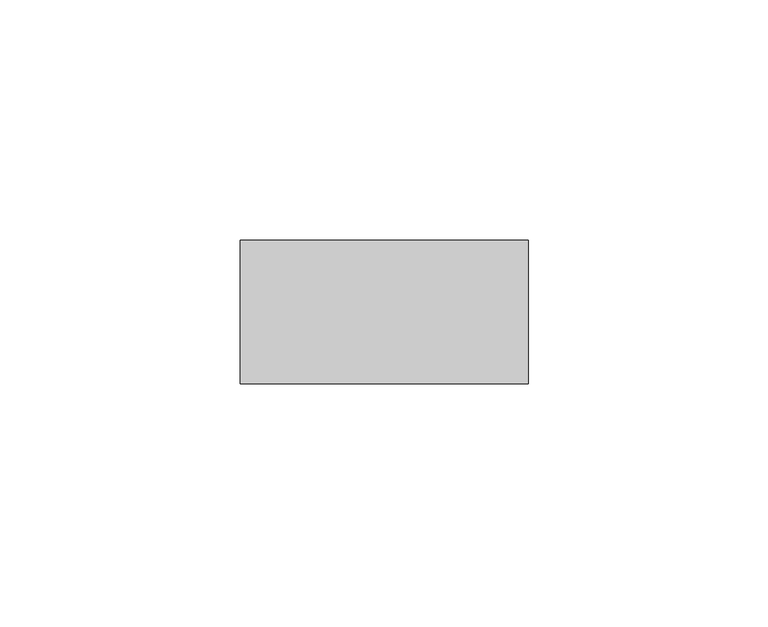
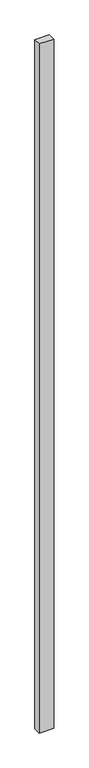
"""IFC4 building model written with IfcOpenShell, lengths in millimetres: member geometry, Прямоугольный импост : Квадрат 30 мм."""

from ifc_helpers import new_model, si_unit, frame, origin, place, context, project, spatial, polyline, outline, extrude, source, transform, mapped, element, save


def member_ad037d57(model_context):
    return source(origin(), model_context, "Body", "SweptSolid", [
        extrude(outline(polyline([(0.0, 15.0), (0.0, -15.0), (-60.0, -15.0), (-60.0, 15.0), (0.0, 15.0)])), frame((0.0, 0.0, -3000.0), z_axis=(0.0, 0.0, 1.0), x_axis=(1.0, 0.0, 0.0)), (0.0, 0.0, 1.0), 3000.0),
    ])


if __name__ == "__main__":
    model = new_model("IFC4")
    model_context = context("Model", 3, world=origin())
    ifc_project = project(units=[si_unit("LENGTHUNIT", "METRE", prefix="MILLI")], contexts=[model_context])
    site = spatial("IfcSite", under=ifc_project)
    building = spatial("IfcBuilding", under=site)
    placement = place(None, origin())
    member_shape = member_ad037d57(model_context)
    element("IfcMember", 1, ObjectType="Прямоугольный импост : Квадрат 30 мм", at=placement, inside=building, context=model_context, shape_type="MappedRepresentation", body=[
        mapped(member_shape, transform((0.0, 0.0, 0.0), x_axis=(1.0, 0.0, 0.0), y_axis=(0.0, 1.0, 0.0), z_axis=(0.0, 0.0, 1.0))),
    ])
    save(model, "model.ifc")
